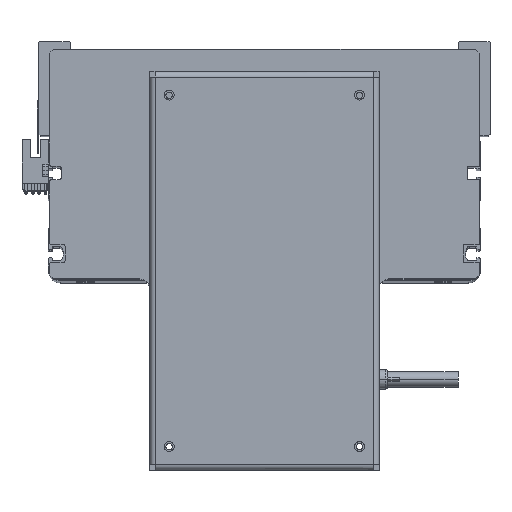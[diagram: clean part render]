
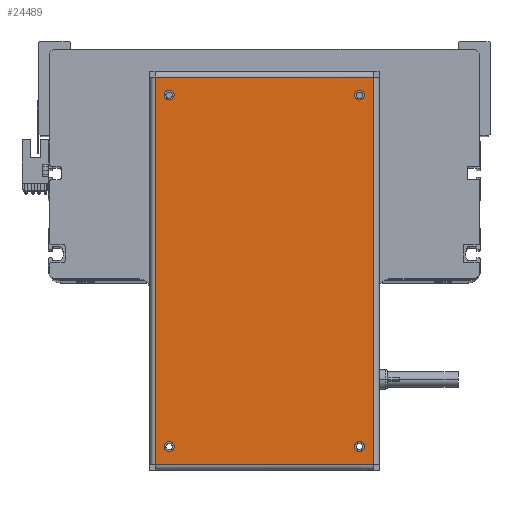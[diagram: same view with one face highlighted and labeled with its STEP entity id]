
A CAD part, top view. The second image highlights one B-rep face of the part: STEP entity #24489.
In plain terms, the highlighted planar face has unit normal (0, 0, 1).
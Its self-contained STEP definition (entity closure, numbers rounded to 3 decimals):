
#80 = CARTESIAN_POINT ( 'NONE',  ( 98.65, 55.6, 0. ) ) ;
#190 = EDGE_CURVE ( 'NONE', #34037, #9966, #28171, .T. ) ;
#979 = EDGE_CURVE ( 'NONE', #8100, #22293, #15267, .T. ) ;
#1960 = DIRECTION ( 'NONE',  ( 1., 0., 0. ) ) ;
#2196 = CIRCLE ( 'NONE', #29905, 2.5 ) ;
#3109 = CIRCLE ( 'NONE', #9069, 2.5 ) ;
#3229 = EDGE_CURVE ( 'NONE', #39230, #6995, #2196, .T. ) ;
#3532 = DIRECTION ( 'NONE',  ( -1., 0., 0. ) ) ;
#3887 = DIRECTION ( 'NONE',  ( 1., 0., 0. ) ) ;
#4188 = ORIENTED_EDGE ( 'NONE', *, *, #38350, .T. ) ;
#4515 = EDGE_CURVE ( 'NONE', #8637, #19981, #5465, .T. ) ;
#4521 = EDGE_CURVE ( 'NONE', #9966, #34037, #3109, .T. ) ;
#5168 = VECTOR ( 'NONE', #38739, 1000. ) ;
#5288 = ORIENTED_EDGE ( 'NONE', *, *, #4521, .F. ) ;
#5373 = DIRECTION ( 'NONE',  ( 0., 0., 1. ) ) ;
#5465 = LINE ( 'NONE', #28157, #8406 ) ;
#5676 = PLANE ( 'NONE',  #16812 ) ;
#6048 = AXIS2_PLACEMENT_3D ( 'NONE', #30381, #21087, #9368 ) ;
#6065 = ORIENTED_EDGE ( 'NONE', *, *, #190, .F. ) ;
#6995 = VERTEX_POINT ( 'NONE', #33142 ) ;
#7927 = CARTESIAN_POINT ( 'NONE',  ( 87.05, 48.5, 0. ) ) ;
#8070 = VERTEX_POINT ( 'NONE', #80 ) ;
#8100 = VERTEX_POINT ( 'NONE', #21034 ) ;
#8128 = CARTESIAN_POINT ( 'NONE',  ( -89.55, 48.5, 0. ) ) ;
#8406 = VECTOR ( 'NONE', #3887, 1000. ) ;
#8637 = VERTEX_POINT ( 'NONE', #10033 ) ;
#9069 = AXIS2_PLACEMENT_3D ( 'NONE', #28027, #13232, #37125 ) ;
#9368 = DIRECTION ( 'NONE',  ( 1., 0., 0. ) ) ;
#9380 = CARTESIAN_POINT ( 'NONE',  ( 98.65, -55.6, 0. ) ) ;
#9694 = EDGE_CURVE ( 'NONE', #38257, #27702, #26307, .T. ) ;
#9777 = DIRECTION ( 'NONE',  ( 1., 0., 0. ) ) ;
#9966 = VERTEX_POINT ( 'NONE', #34376 ) ;
#10033 = CARTESIAN_POINT ( 'NONE',  ( -98.65, -55.6, 0. ) ) ;
#11051 = AXIS2_PLACEMENT_3D ( 'NONE', #34487, #30949, #18989 ) ;
#11083 = EDGE_LOOP ( 'NONE', ( #6065, #5288 ) ) ;
#12024 = ORIENTED_EDGE ( 'NONE', *, *, #17000, .F. ) ;
#12269 = EDGE_LOOP ( 'NONE', ( #12024, #22191 ) ) ;
#12603 = AXIS2_PLACEMENT_3D ( 'NONE', #26233, #35364, #17163 ) ;
#12764 = FACE_BOUND ( 'NONE', #12269, .T. ) ;
#12830 = DIRECTION ( 'NONE',  ( 0., 0., 1. ) ) ;
#13102 = CARTESIAN_POINT ( 'NONE',  ( 92.05, -48.5, 0. ) ) ;
#13232 = DIRECTION ( 'NONE',  ( 0., 0., 1. ) ) ;
#13616 = ORIENTED_EDGE ( 'NONE', *, *, #34007, .F. ) ;
#14026 = DIRECTION ( 'NONE',  ( 1., 0., 0. ) ) ;
#14269 = EDGE_CURVE ( 'NONE', #8070, #17471, #35609, .T. ) ;
#14487 = CARTESIAN_POINT ( 'NONE',  ( -92.05, -48.5, 0. ) ) ;
#15267 = CIRCLE ( 'NONE', #16810, 2.5 ) ;
#16810 = AXIS2_PLACEMENT_3D ( 'NONE', #8128, #38373, #1960 ) ;
#16812 = AXIS2_PLACEMENT_3D ( 'NONE', #27133, #27502, #21254 ) ;
#17000 = EDGE_CURVE ( 'NONE', #6995, #39230, #33487, .T. ) ;
#17163 = DIRECTION ( 'NONE',  ( 1., 0., 0. ) ) ;
#17471 = VERTEX_POINT ( 'NONE', #37318 ) ;
#17533 = FACE_BOUND ( 'NONE', #20096, .T. ) ;
#18689 = EDGE_LOOP ( 'NONE', ( #4188, #24643, #26804, #29843 ) ) ;
#18989 = DIRECTION ( 'NONE',  ( 1., 0., 0. ) ) ;
#19092 = CARTESIAN_POINT ( 'NONE',  ( 89.55, -48.5, 0. ) ) ;
#19981 = VERTEX_POINT ( 'NONE', #9380 ) ;
#20096 = EDGE_LOOP ( 'NONE', ( #38444, #27547 ) ) ;
#21005 = EDGE_CURVE ( 'NONE', #22293, #8100, #30578, .T. ) ;
#21034 = CARTESIAN_POINT ( 'NONE',  ( -92.05, 48.5, 0. ) ) ;
#21087 = DIRECTION ( 'NONE',  ( 0., 0., 1. ) ) ;
#21254 = DIRECTION ( 'NONE',  ( -1., 0., 0. ) ) ;
#21417 = CARTESIAN_POINT ( 'NONE',  ( -98.65, 55.6, 0. ) ) ;
#21922 = AXIS2_PLACEMENT_3D ( 'NONE', #19092, #12830, #9777 ) ;
#22191 = ORIENTED_EDGE ( 'NONE', *, *, #3229, .F. ) ;
#22293 = VERTEX_POINT ( 'NONE', #25901 ) ;
#22724 = EDGE_CURVE ( 'NONE', #19981, #8070, #29473, .T. ) ;
#23606 = CARTESIAN_POINT ( 'NONE',  ( -89.55, -48.5, 0. ) ) ;
#24320 = DIRECTION ( 'NONE',  ( 0., -1., 0. ) ) ;
#24489 = ADVANCED_FACE ( 'NONE', ( #37919, #17533, #36966, #12764, #27052 ), #5676, .F. ) ;
#24643 = ORIENTED_EDGE ( 'NONE', *, *, #4515, .T. ) ;
#25627 = VECTOR ( 'NONE', #3532, 1000. ) ;
#25901 = CARTESIAN_POINT ( 'NONE',  ( -87.05, 48.5, 0. ) ) ;
#26233 = CARTESIAN_POINT ( 'NONE',  ( 89.55, 48.5, 0. ) ) ;
#26307 = CIRCLE ( 'NONE', #33788, 2.5 ) ;
#26426 = CARTESIAN_POINT ( 'NONE',  ( 89.55, 48.5, 0. ) ) ;
#26804 = ORIENTED_EDGE ( 'NONE', *, *, #22724, .T. ) ;
#27052 = FACE_OUTER_BOUND ( 'NONE', #18689, .T. ) ;
#27133 = CARTESIAN_POINT ( 'NONE',  ( 98.75, 58.5, 0. ) ) ;
#27502 = DIRECTION ( 'NONE',  ( 0., 0., -1. ) ) ;
#27547 = ORIENTED_EDGE ( 'NONE', *, *, #979, .F. ) ;
#27702 = VERTEX_POINT ( 'NONE', #14487 ) ;
#28027 = CARTESIAN_POINT ( 'NONE',  ( 89.55, -48.5, 0. ) ) ;
#28157 = CARTESIAN_POINT ( 'NONE',  ( -98.75, -55.6, 0. ) ) ;
#28171 = CIRCLE ( 'NONE', #21922, 2.5 ) ;
#29102 = DIRECTION ( 'NONE',  ( 1., 0., 0. ) ) ;
#29131 = VECTOR ( 'NONE', #24320, 1000. ) ;
#29473 = LINE ( 'NONE', #29715, #5168 ) ;
#29715 = CARTESIAN_POINT ( 'NONE',  ( 98.65, -55.6, 0. ) ) ;
#29843 = ORIENTED_EDGE ( 'NONE', *, *, #14269, .T. ) ;
#29905 = AXIS2_PLACEMENT_3D ( 'NONE', #26426, #38076, #29102 ) ;
#30078 = CARTESIAN_POINT ( 'NONE',  ( 98.75, 55.6, 0. ) ) ;
#30381 = CARTESIAN_POINT ( 'NONE',  ( -89.55, 48.5, 0. ) ) ;
#30578 = CIRCLE ( 'NONE', #6048, 2.5 ) ;
#30603 = ORIENTED_EDGE ( 'NONE', *, *, #9694, .F. ) ;
#30949 = DIRECTION ( 'NONE',  ( 0., 0., 1. ) ) ;
#32186 = EDGE_LOOP ( 'NONE', ( #30603, #13616 ) ) ;
#32299 = CIRCLE ( 'NONE', #11051, 2.5 ) ;
#32716 = CARTESIAN_POINT ( 'NONE',  ( -87.05, -48.5, 0. ) ) ;
#33142 = CARTESIAN_POINT ( 'NONE',  ( 92.05, 48.5, 0. ) ) ;
#33487 = CIRCLE ( 'NONE', #12603, 2.5 ) ;
#33788 = AXIS2_PLACEMENT_3D ( 'NONE', #23606, #5373, #14026 ) ;
#34007 = EDGE_CURVE ( 'NONE', #27702, #38257, #32299, .T. ) ;
#34037 = VERTEX_POINT ( 'NONE', #13102 ) ;
#34376 = CARTESIAN_POINT ( 'NONE',  ( 87.05, -48.5, 0. ) ) ;
#34487 = CARTESIAN_POINT ( 'NONE',  ( -89.55, -48.5, 0. ) ) ;
#35270 = LINE ( 'NONE', #21417, #29131 ) ;
#35364 = DIRECTION ( 'NONE',  ( 0., 0., 1. ) ) ;
#35609 = LINE ( 'NONE', #30078, #25627 ) ;
#36966 = FACE_BOUND ( 'NONE', #11083, .T. ) ;
#37125 = DIRECTION ( 'NONE',  ( 1., 0., 0. ) ) ;
#37318 = CARTESIAN_POINT ( 'NONE',  ( -98.65, 55.6, 0. ) ) ;
#37919 = FACE_BOUND ( 'NONE', #32186, .T. ) ;
#38076 = DIRECTION ( 'NONE',  ( 0., 0., 1. ) ) ;
#38257 = VERTEX_POINT ( 'NONE', #32716 ) ;
#38350 = EDGE_CURVE ( 'NONE', #17471, #8637, #35270, .T. ) ;
#38373 = DIRECTION ( 'NONE',  ( 0., 0., 1. ) ) ;
#38444 = ORIENTED_EDGE ( 'NONE', *, *, #21005, .F. ) ;
#38739 = DIRECTION ( 'NONE',  ( 0., 1., 0. ) ) ;
#39230 = VERTEX_POINT ( 'NONE', #7927 ) ;
